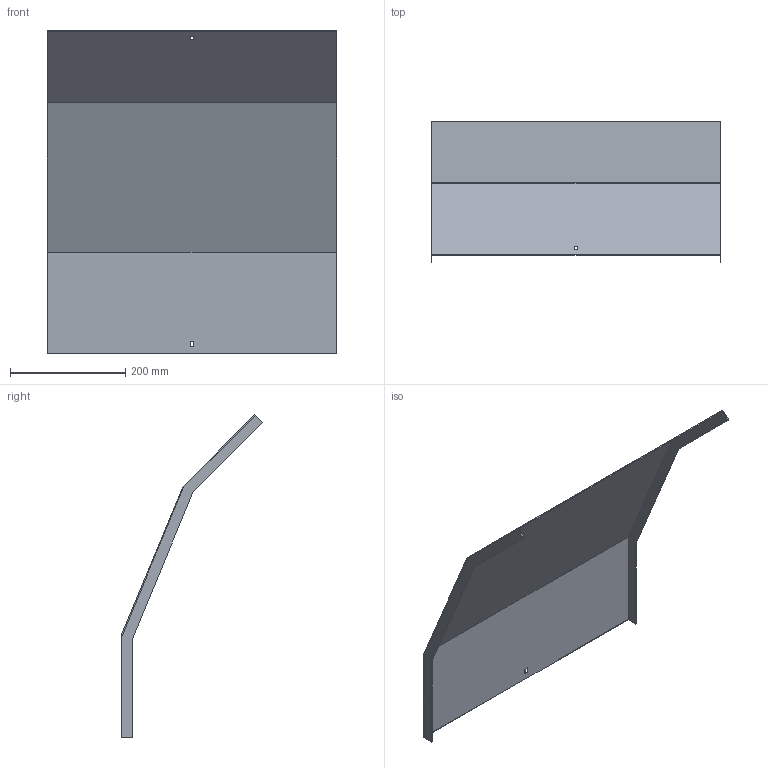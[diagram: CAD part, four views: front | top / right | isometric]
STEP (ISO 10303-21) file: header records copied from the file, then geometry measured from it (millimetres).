
FILE_DESCRIPTION (( 'STEP AP214' ), '1' );
FILE_NAME ('A2_34N3J500.step', '2025-02-21T10:35:28', ( '' ), ( '' ), 'SwSTEP 2.0', 'SolidWorks 2023', '' );
FILE_SCHEMA (( 'AUTOMOTIVE_DESIGN' ));
Length unit declared in the file: millimetre
Products named in the file (1): A2_34N3J500
Bounding box: 503 x 246.09 x 559.98 mm (x, y, z)
Volume: 511559.1 mm3; surface area: 685644.6 mm2
Topology: 1 solids, 1 shells, 26 faces, 72 edges, 48 vertices
Faces by surface type: plane 26
Entity records: 847 total; most frequent: CARTESIAN_POINT 147, ORIENTED_EDGE 144, DIRECTION 126, LINE 72, EDGE_CURVE 72, VECTOR 72, VERTEX_POINT 48, EDGE_LOOP 30
